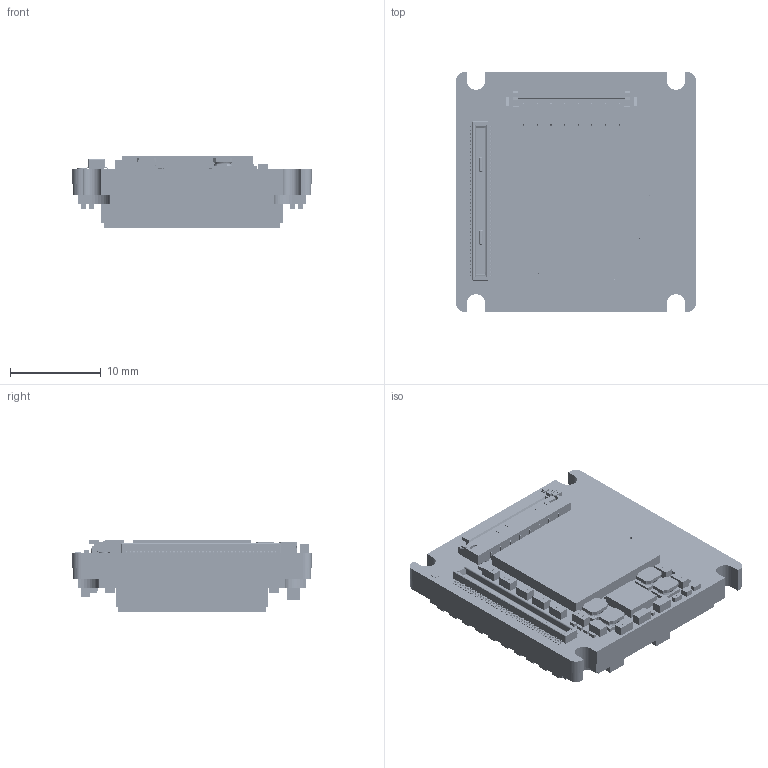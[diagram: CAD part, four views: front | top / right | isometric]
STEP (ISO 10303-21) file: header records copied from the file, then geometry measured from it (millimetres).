
FILE_DESCRIPTION (( 'STEP AP214' ), '1' );
FILE_NAME ('Alvium-CSI2-Bare-Board-IMX545-546-547.STEP', '2021-08-18T12:09:06', ( '' ), ( '' ), 'SwSTEP 2.0', 'SolidWorks 2020', '' );
FILE_SCHEMA (( 'AUTOMOTIVE_DESIGN' ));
Length unit declared in the file: millimetre
Products named in the file (1): Alvium-CSI2-Bare-Board-IMX545-546-547
Bounding box: 26.4 x 26.4 x 7.91 mm (x, y, z)
Surface area: 4822.4 mm2 (no closed solid volume)
Topology: 0 solids, 350 shells, 6347 faces, 20465 edges, 15055 vertices
Faces by surface type: plane 3415, bspline 1890, cylinder 1038, cone 4
Entity records: 450092 total; most frequent: CARTESIAN_POINT 217885, ORIENTED_EDGE 35467, DIRECTION 24653, EDGE_CURVE 20458, VERTEX_POINT 15055, LINE 11535, VECTOR 11535, EDGE_LOOP 7280
